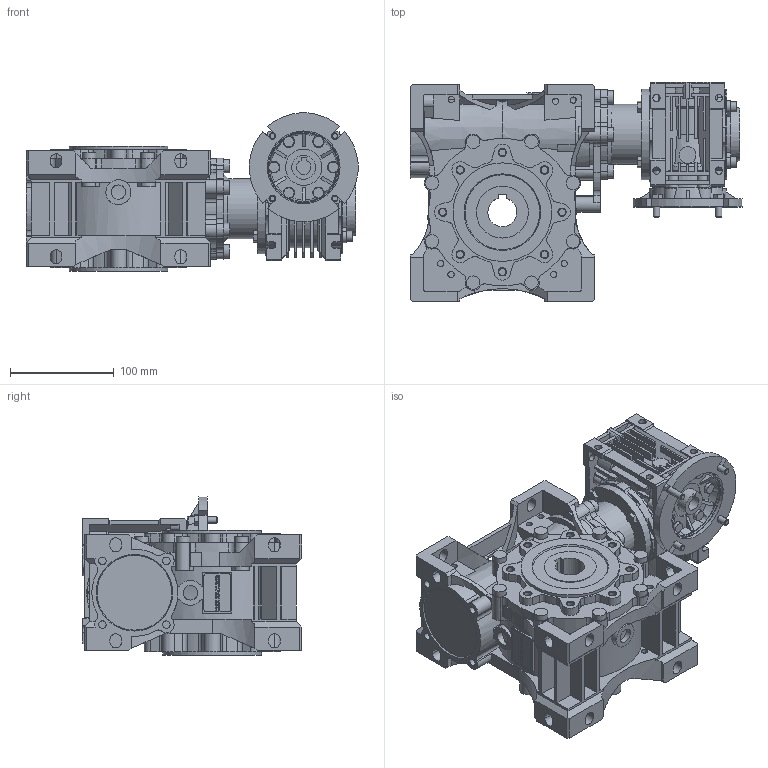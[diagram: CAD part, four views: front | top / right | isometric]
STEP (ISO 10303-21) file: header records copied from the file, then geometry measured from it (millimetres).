
FILE_DESCRIPTION(/* description */ ('STEP AP214'),/* implementation_level */ '2;1');
FILE_NAME(/* name */ 'NMRVP-NMRVP 040-075 100 (10x10) PS1 105x14 18 NO 28 NO NO - - NO - - - NO NO - --(--------)',/* time_stamp */ '2024-10-24T11:00:06+02:00',/* author */ ('License CC BY-ND 4.0'),/* organization */ ('CADENAS'),/* preprocessor_version */ 'ST-DEVELOPER v19.3',/* originating_system */ 'PARTsolutions',/* authorisation */ ' ');
FILE_SCHEMA (('AUTOMOTIVE_DESIGN {1 0 10303 214 3 1 1}'));
Products named in the file (11): NMRVP-NMRVP 040-075 100 (10x10) PS1 105x14 18 NO 28 NO NO - - NO - - 
- NO NO - --(--------); W.075.01.M; 075-28 (120); W.075.14.24.M-p; 040-075-TRA; W.040.01.M; 040-18 (78); VB 040-14 (14)-p; 4071 B14; Corona 40-p; 75-50
Assembly tree (10 placements, depth 2):
  NMRVP-NMRVP 040-075 100 (10x10) PS1 105x14 18 NO 28 NO NO - - NO - - 
- NO NO - --(--------)
    W.075.01.M
    075-28 (120)
    W.075.14.24.M-p
    040-075-TRA
    W.040.01.M
    040-18 (78)
    VB 040-14 (14)-p
    4071 B14
    Corona 40-p
    75-50
Bounding box: 319.83 x 211 x 152.33 mm (x, y, z)
Volume: 3557416.2 mm3; surface area: 564510.5 mm2
Topology: 10 solids, 16 shells, 2225 faces, 6033 edges, 3965 vertices
Faces by surface type: plane 1409, cylinder 711, cone 101, torus 4
Full cylindrical faces by diameter (mm): 4.917 x8, 5.55 x3, 6 x18, 6.647 x16, 7 x6, 7.26 x12, 10 x11, 10.8 x4, 11 x6, 13 x14, 14 x3, 16 x1, 23 x2, 24 x1, 28 x1, 29 x1, 30 x2, 31 x1, 35 x1, 36 x1, 40 x2, 42 x1, 47 x1, 48 x1, 50 x3, 58 x1, 60 x3, 68 x4, 70 x1, 75 x1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
Entity records: 84996 total; most frequent: CARTESIAN_POINT 13149, DIRECTION 11809, ORIENTED_EDGE 11632, EDGE_CURVE 5816, AXIS2_PLACEMENT_3D 4083, VERTEX_POINT 3932, LINE 3643, VECTOR 3643
